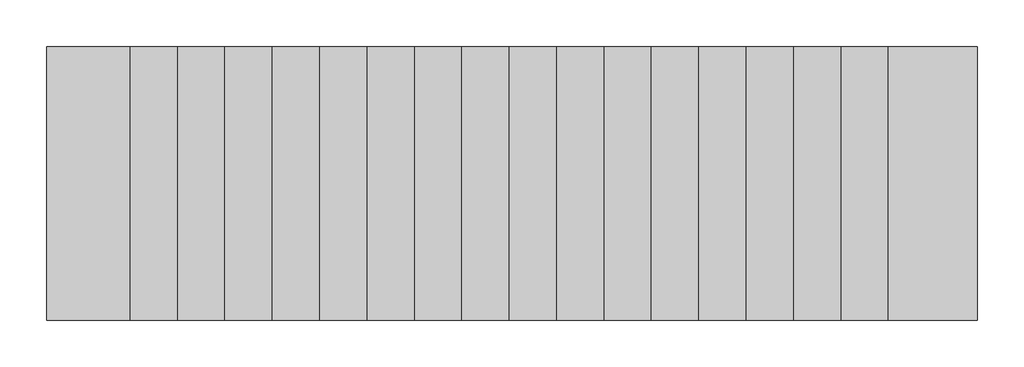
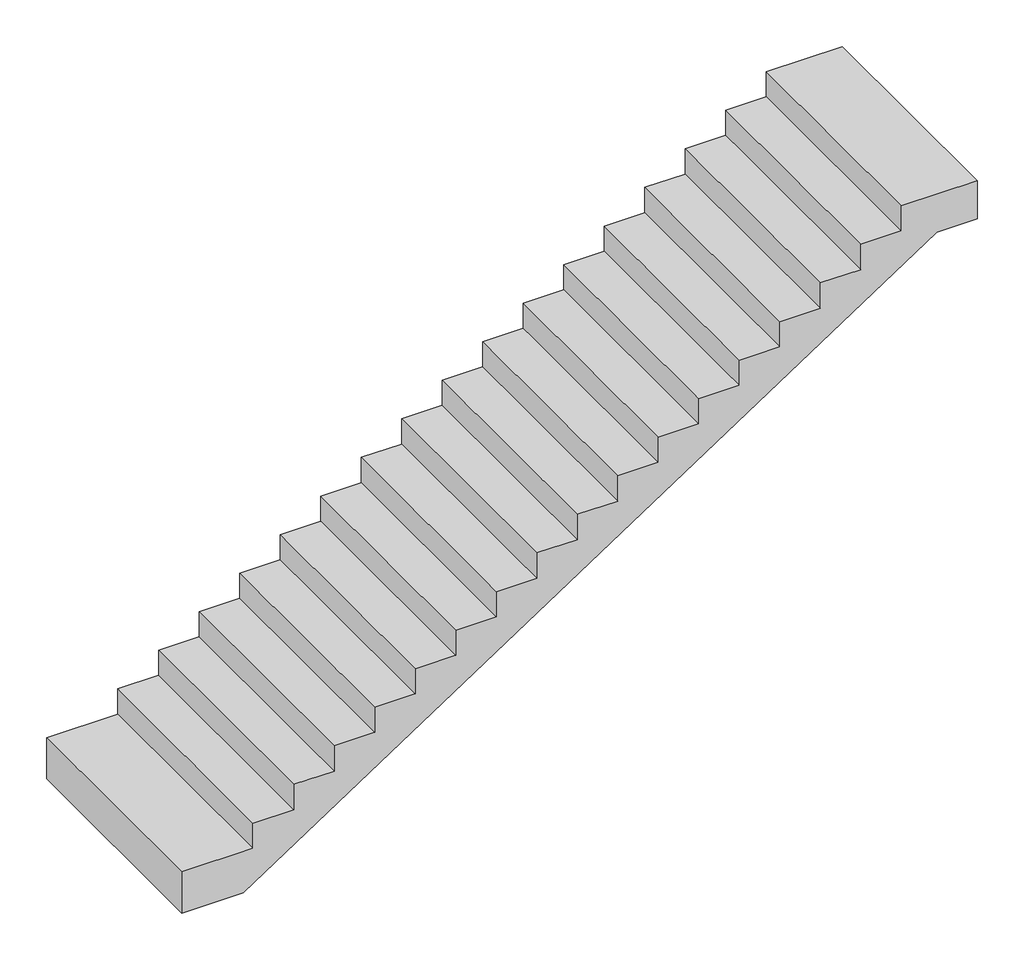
# One storey: 1 proxy.
"""IFC4 building model written with IfcOpenShell, lengths in millimetres."""

from ifc_helpers import new_model, si_unit, origin, place, context, project, spatial, transform, mapped, element, save
from components import generic_models_d7fb4fc1

model = new_model("IFC4")

# Units and contexts
model_context = context("Model", 3, world=origin())
ifc_project = project(units=[si_unit("LENGTHUNIT", "METRE", prefix="MILLI")], contexts=[model_context])

# Site, building, storey
site = spatial("IfcSite", under=ifc_project)
building = spatial("IfcBuilding", under=site)
storey = spatial("IfcBuildingStorey", under=building, Name="标高 1", Elevation=0.0)

# Proxy
placement = place(None, origin())
generic_models_shape = generic_models_d7fb4fc1(model_context)
element("IfcBuildingElementProxy", 1, Name="常规模型 1 : 常规模型 1", ObjectType="常规模型 1 : 常规模型 1", at=placement, inside=storey, context=model_context, shape_type="MappedRepresentation", body=[
    mapped(generic_models_shape, transform((0.0, 0.0, 0.0), x_axis=(1.0, 0.0, 0.0), y_axis=(0.0, 1.0, 0.0), z_axis=(0.0, 0.0, 1.0))),
])

save(model, "model.ifc")
